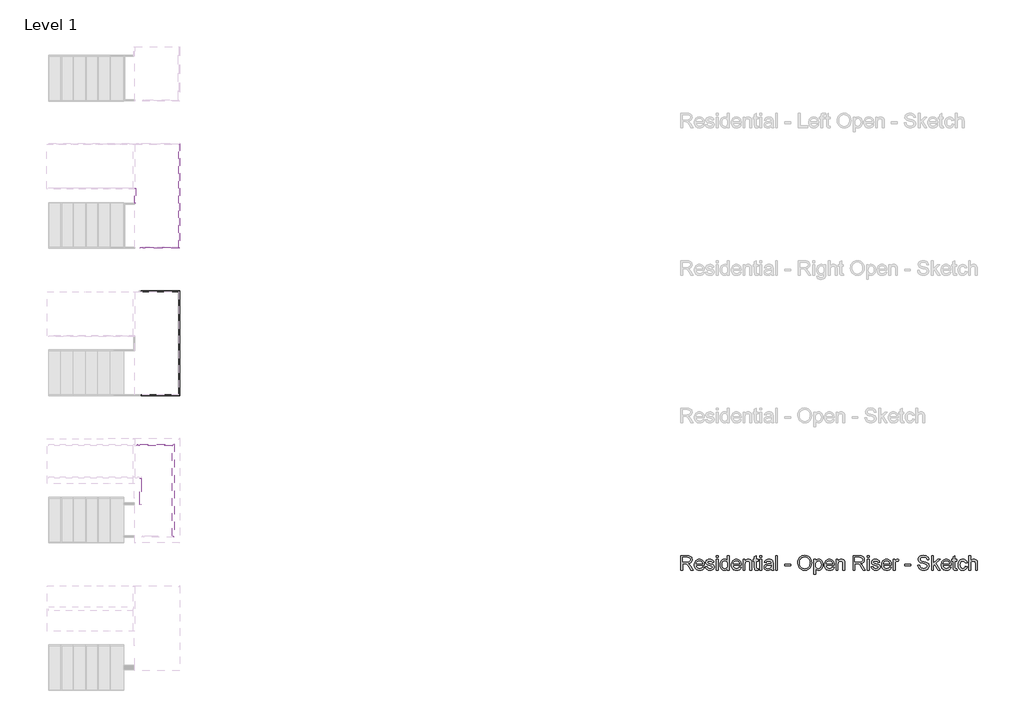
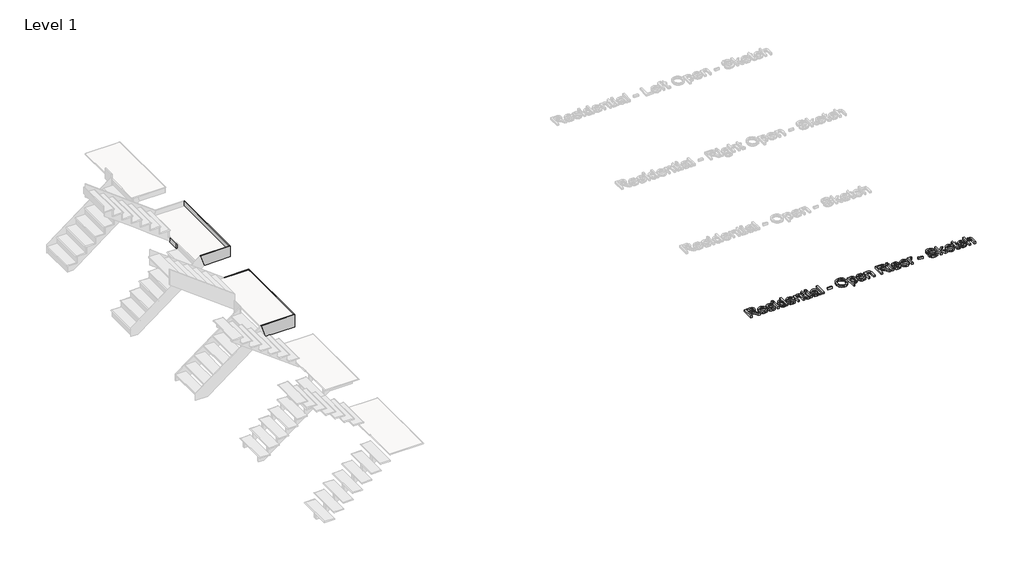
# One storey, part 11 of 26: 9 members, 1 proxy.
"""IFC4 building model written with IfcOpenShell, lengths in millimetres."""

from ifc_helpers import new_model, si_unit, frame, origin, origin_with_axes, place, context, project, spatial, polyline, outline, extrude, faceted_brep, element, save

model = new_model("IFC4")

# Units and contexts
model_context = context("Model", 3, world=origin())
ifc_project = project(units=[si_unit("LENGTHUNIT", "METRE", prefix="MILLI")], contexts=[model_context])

# Site, building, storey
site = spatial("IfcSite", under=ifc_project)
building = spatial("IfcBuilding", under=site)
storey = spatial("IfcBuildingStorey", under=building, Name="Level 1", Elevation=0.0)

# Proxy
placement = place(None, origin())
element("IfcBuildingElementProxy", 1, Name="12\" Arial", ObjectType="12\" Arial", at=placement, inside=storey, context=model_context, shape_type="SweptSolid", body=[
    extrude(outline(polyline([(-4715.4981187, -8811.1232123), (-4715.4981187, -8511.012443), (-4586.1779264, -8511.012443), (-4551.420835, -8513.0365055), (-4526.1337918, -8519.108693), (-4507.6516283, -8530.3188854), (-4493.3091764, -8547.7569623), (-4484.1047293, -8569.380544), (-4481.0365802, -8593.1472507), (-4486.1196331, -8622.7113854), (-4501.3687918, -8647.219943), (-4512.9201439, -8657.2074551), (-4527.2419889, -8665.1892219), (-4564.1971571, -8675.13552), (-4542.875811, -8691.1814815), (-4512.4690802, -8729.7943661), (-4462.4261956, -8811.1232123), (-4506.0213879, -8811.1232123), (-4545.0738879, -8748.9176354), (-4573.2825418, -8707.7403277), (-4593.1018687, -8688.2873469), (-4610.9429264, -8681.1435969), (-4632.7038879, -8679.8247507), (-4677.9842725, -8679.8247507), (-4677.9842725, -8811.1232123), (-4715.4981187, -8811.1232123)]), holes=[polyline([(-4677.9842725, -8642.3109046), (-4594.0177341, -8642.3109046), (-4569.9029985, -8640.9828998), (-4551.1918687, -8636.9988854), (-4537.1058591, -8630.0932604), (-4526.8664841, -8620.0004238), (-4520.6294408, -8607.7919382), (-4518.5504264, -8594.5393661), (-4522.5161235, -8576.2403757), (-4534.4132148, -8561.494943), (-4554.8828062, -8551.7684527), (-4584.5660033, -8548.5262892), (-4677.9842725, -8548.5262892), (-4677.9842725, -8642.3109046)])]), origin_with_axes(), (0.0, 0.0, 1.0), 50.8),
    extrude(outline(polyline([(-4265.7715802, -8745.4739815), (-4228.9904264, -8750.1632123), (-4242.2429985, -8777.8772988), (-4263.3903302, -8798.5941738), (-4291.9561716, -8811.5078757), (-4327.4642725, -8815.812443), (-4350.7409913, -8813.955526), (-4371.4807629, -8808.3847748), (-4389.6835874, -8799.1001894), (-4405.3494648, -8786.10177), (-4417.9471932, -8769.7512832), (-4426.9455706, -8750.4104959), (-4432.344597, -8728.0794082), (-4434.1442725, -8702.75802), (-4432.3262797, -8676.5780079), (-4426.8723014, -8653.5027796), (-4417.7823374, -8633.5323349), (-4405.0563879, -8616.6666738), (-4389.4317244, -8603.2675632), (-4371.6456187, -8593.69677), (-4351.6980706, -8587.954294), (-4329.5890802, -8586.0401354), (-4308.1921752, -8587.9497147), (-4288.8422293, -8593.6784527), (-4271.5392425, -8603.2263493), (-4256.2832148, -8616.5934046), (-4243.8297353, -8633.422431), (-4234.9343927, -8653.3562411), (-4229.5971872, -8676.3948349), (-4227.8181187, -8702.5382123), (-4228.0379264, -8712.6493661), (-4396.6304264, -8712.6493661), (-4390.1369408, -8740.7297988), (-4375.0526379, -8761.3734046), (-4353.2825177, -8774.0672988), (-4326.7315802, -8778.2985969), (-4306.7657148, -8776.338645), (-4289.9504264, -8770.4587892), (-4276.2857148, -8760.2926834), (-4265.7715802, -8745.4739815)]), holes=[polyline([(-4396.6304264, -8675.13552), (-4265.3319648, -8675.13552), (-4270.4058591, -8655.316193), (-4280.3521571, -8641.1385969), (-4302.2230225, -8627.9501354), (-4329.7356187, -8623.5539815), (-4355.0226619, -8627.0617459), (-4375.9318687, -8637.5850392), (-4390.4666523, -8653.9881882), (-4396.6304264, -8675.13552)])]), origin_with_axes(), (0.0, 0.0, 1.0), 50.8),
    extrude(outline(polyline([(-4204.3719648, -8745.4739815), (-4166.8581187, -8740.7847507), (-4160.9416283, -8756.8307123), (-4149.493311, -8768.6270584), (-4132.4398975, -8775.8807123), (-4109.7081187, -8778.2985969), (-4087.2510994, -8776.0822027), (-4071.4615802, -8769.43302), (-4062.1197533, -8759.7981161), (-4059.005811, -8748.6245584), (-4062.1380706, -8739.0629238), (-4071.5348494, -8731.7726354), (-4110.1477341, -8721.0753277), (-4166.638311, -8702.7213854), (-4180.9349696, -8693.4986209), (-4191.2934071, -8681.2901354), (-4197.5854023, -8666.8744142), (-4199.6827341, -8651.029943), (-4197.9975418, -8636.4951594), (-4192.9419648, -8623.0777315), (-4184.973936, -8611.3088613), (-4174.5513879, -8601.7197507), (-4150.7022533, -8590.6194623), (-4118.4271571, -8586.0401354), (-4094.010186, -8587.8810248), (-4072.7804264, -8593.403693), (-4055.7086956, -8602.0677796), (-4043.765811, -8613.3329238), (-4035.8527341, -8628.0325632), (-4030.8704264, -8647.0001354), (-4068.3842725, -8651.6893661), (-4073.1192966, -8639.8838613), (-4082.4885994, -8630.9908084), (-4096.5837677, -8625.4131882), (-4115.4963879, -8623.5539815), (-4137.0375418, -8625.3307604), (-4151.398311, -8630.6610969), (-4159.4762437, -8638.3543661), (-4162.1688879, -8647.219943), (-4157.6994648, -8658.1370584), (-4143.7050418, -8666.4164815), (-4111.393311, -8674.4028277), (-4056.3314841, -8692.0607123), (-4041.7875418, -8700.5049911), (-4030.7605225, -8712.0632123), (-4023.8091043, -8726.7720104), (-4021.4919648, -8744.66802), (-4024.212085, -8763.1685007), (-4032.3724456, -8780.569943), (-4045.6616523, -8795.5077075), (-4063.768311, -8806.6171546), (-4085.6391764, -8813.5136209), (-4110.2210033, -8815.812443), (-4148.0462437, -8811.3796546), (-4175.6504264, -8798.0812892), (-4194.0776379, -8776.0638854), (-4204.3719648, -8745.4739815)])), origin_with_axes(), (0.0, 0.0, 1.0), 50.8),
    extrude(outline(polyline([(-3979.2888879, -8811.1232123), (-3979.2888879, -8590.7293661), (-3941.7750418, -8590.7293661), (-3941.7750418, -8811.1232123), (-3979.2888879, -8811.1232123)])), origin_with_axes(), (0.0, 0.0, 1.0), 50.8),
    extrude(outline(polyline([(-3979.2888879, -8548.5262892), (-3979.2888879, -8511.012443), (-3941.7750418, -8511.012443), (-3941.7750418, -8548.5262892), (-3979.2888879, -8548.5262892)])), origin_with_axes(), (0.0, 0.0, 1.0), 50.8),
    extrude(outline(polyline([(-3749.5165802, -8811.1232123), (-3749.5165802, -8775.7341738), (-3760.7405105, -8793.2684166), (-3774.3365321, -8805.7928757), (-3790.3046451, -8813.3075512), (-3808.6448494, -8815.812443), (-3832.8969648, -8812.1856161), (-3855.0975418, -8801.3051354), (-3873.8910994, -8783.931169), (-3887.9221571, -8760.8238854), (-3896.6595129, -8732.9174671), (-3899.5719648, -8701.1460969), (-3896.8884793, -8669.7685488), (-3888.8380225, -8641.4316738), (-3875.4297533, -8617.747395), (-3856.6728302, -8600.3276354), (-3833.9868446, -8589.6120104), (-3808.7913879, -8586.0401354), (-3790.4374456, -8588.5953998), (-3774.208311, -8596.261193), (-3760.4520129, -8608.0117459), (-3749.5165802, -8622.8212892), (-3749.5165802, -8511.012443), (-3712.0027341, -8511.012443), (-3712.0027341, -8811.1232123), (-3749.5165802, -8811.1232123)]), holes=[polyline([(-3862.0581187, -8700.9995584), (-3857.8268206, -8734.9323709), (-3845.1329264, -8759.0654238), (-3826.6873975, -8773.4903036), (-3805.2011956, -8778.2985969), (-3783.7241523, -8773.7101113), (-3765.7457148, -8759.9446546), (-3753.5738639, -8736.7457844), (-3749.5165802, -8703.8570584), (-3753.6471331, -8667.9001834), (-3766.0387918, -8642.9703277), (-3784.4751619, -8628.408068), (-3806.7398494, -8623.5539815), (-3828.4458591, -8628.2157363), (-3846.2319648, -8642.2010007), (-3858.1015802, -8666.2241498), (-3862.0581187, -8700.9995584)])]), origin_with_axes(), (0.0, 0.0, 1.0), 50.8),
    extrude(outline(polyline([(-3501.4269648, -8745.4739815), (-3464.645811, -8750.1632123), (-3477.8983831, -8777.8772988), (-3499.0457148, -8798.5941738), (-3527.6115562, -8811.5078757), (-3563.1196571, -8815.812443), (-3586.3963759, -8813.955526), (-3607.1361475, -8808.3847748), (-3625.338972, -8799.1001894), (-3641.0048494, -8786.10177), (-3653.6025778, -8769.7512832), (-3662.6009552, -8750.4104959), (-3667.9999817, -8728.0794082), (-3669.7996571, -8702.75802), (-3667.9816643, -8676.5780079), (-3662.527686, -8653.5027796), (-3653.437722, -8633.5323349), (-3640.7117725, -8616.6666738), (-3625.0871091, -8603.2675632), (-3607.3010033, -8593.69677), (-3587.3534552, -8587.954294), (-3565.2444648, -8586.0401354), (-3543.8475598, -8587.9497147), (-3524.4976139, -8593.6784527), (-3507.1946271, -8603.2263493), (-3491.9385994, -8616.5934046), (-3479.4851199, -8633.422431), (-3470.5897773, -8653.3562411), (-3465.2525718, -8676.3948349), (-3463.4735033, -8702.5382123), (-3463.693311, -8712.6493661), (-3632.285811, -8712.6493661), (-3625.7923254, -8740.7297988), (-3610.7080225, -8761.3734046), (-3588.9379023, -8774.0672988), (-3562.3869648, -8778.2985969), (-3542.4210994, -8776.338645), (-3525.605811, -8770.4587892), (-3511.9410994, -8760.2926834), (-3501.4269648, -8745.4739815)]), holes=[polyline([(-3632.285811, -8675.13552), (-3500.9873494, -8675.13552), (-3506.0612437, -8655.316193), (-3516.0075418, -8641.1385969), (-3537.8784071, -8627.9501354), (-3565.3910033, -8623.5539815), (-3590.6780466, -8627.0617459), (-3611.5872533, -8637.5850392), (-3626.1220369, -8653.9881882), (-3632.285811, -8675.13552)])]), origin_with_axes(), (0.0, 0.0, 1.0), 50.8),
    extrude(outline(polyline([(-3425.9596571, -8811.1232123), (-3425.9596571, -8590.7293661), (-3388.445811, -8590.7293661), (-3388.445811, -8621.502443), (-3375.4130466, -8605.9876834), (-3359.7609071, -8594.9057123), (-3341.4893927, -8588.2565296), (-3320.5985033, -8586.0401354), (-3302.1071812, -8587.8260729), (-3285.1728302, -8593.1838854), (-3271.050186, -8601.4449911), (-3260.9939841, -8611.9408084), (-3249.7471571, -8639.5266738), (-3247.7688879, -8675.794943), (-3247.7688879, -8811.1232123), (-3285.2827341, -8811.1232123), (-3285.2827341, -8680.85052), (-3289.6056187, -8647.6595584), (-3295.5862196, -8637.7773709), (-3304.8822533, -8630.1115777), (-3316.7976619, -8625.1933805), (-3330.6363879, -8623.5539815), (-3352.6079985, -8627.2357604), (-3371.3374456, -8638.2810969), (-3378.8223555, -8647.2977916), (-3384.1687196, -8659.6207604), (-3388.445811, -8694.18552), (-3388.445811, -8811.1232123), (-3425.9596571, -8811.1232123)])), origin_with_axes(), (0.0, 0.0, 1.0), 50.8),
    extrude(outline(polyline([(-3116.4704264, -8779.8372507), (-3111.7811956, -8812.2222507), (-3139.843311, -8815.812443), (-3157.8492244, -8814.2554719), (-3171.275811, -8809.5845584), (-3180.7641764, -8802.3858565), (-3186.9554264, -8793.24552), (-3190.3624456, -8777.5475873), (-3191.4981187, -8750.6760969), (-3191.4981187, -8628.2432123), (-3219.6335033, -8628.2432123), (-3219.6335033, -8590.7293661), (-3191.4981187, -8590.7293661), (-3191.4981187, -8537.1695584), (-3153.9842725, -8515.11552), (-3153.9842725, -8590.7293661), (-3116.4704264, -8590.7293661), (-3116.4704264, -8628.2432123), (-3153.9842725, -8628.2432123), (-3153.9842725, -8749.5770584), (-3152.0060033, -8768.9201354), (-3145.5949456, -8775.7708084), (-3132.8094648, -8778.2985969), (-3116.4704264, -8779.8372507)])), origin_with_axes(), (0.0, 0.0, 1.0), 50.8),
    extrude(outline(polyline([(-3078.9565802, -8811.1232123), (-3078.9565802, -8590.7293661), (-3041.4427341, -8590.7293661), (-3041.4427341, -8811.1232123), (-3078.9565802, -8811.1232123)])), origin_with_axes(), (0.0, 0.0, 1.0), 50.8),
    extrude(outline(polyline([(-3078.9565802, -8548.5262892), (-3078.9565802, -8511.012443), (-3041.4427341, -8511.012443), (-3041.4427341, -8548.5262892), (-3078.9565802, -8548.5262892)])), origin_with_axes(), (0.0, 0.0, 1.0), 50.8),
    extrude(outline(polyline([(-2844.4950418, -8782.9878277), (-2862.4185273, -8798.3560488), (-2880.8732148, -8808.4122507), (-2900.2804023, -8813.962395), (-2921.0613879, -8815.812443), (-2952.41146, -8811.3613373), (-2975.537061, -8798.00802), (-2989.797085, -8777.7307604), (-2994.5504264, -8752.5078277), (-2992.7553302, -8736.9564334), (-2987.3700418, -8722.8337892), (-2979.0631427, -8710.7443661), (-2968.5032148, -8701.2926354), (-2942.2361956, -8688.9834046), (-2909.7779264, -8683.3416738), (-2871.4214841, -8677.4068661), (-2844.7148494, -8670.4462892), (-2844.4950418, -8662.0935969), (-2847.0777821, -8645.3515777), (-2854.8260033, -8634.3978277), (-2872.1541764, -8626.264943), (-2896.2963879, -8623.5539815), (-2918.6435033, -8625.3582363), (-2934.2498494, -8630.7710007), (-2944.8922052, -8640.7814094), (-2952.3473494, -8656.3785969), (-2989.8611956, -8651.6893661), (-2983.3493927, -8631.1739815), (-2973.632061, -8615.0547507), (-2959.8024937, -8602.7272027), (-2940.9539841, -8593.5868661), (-2917.9016523, -8587.926818), (-2891.4606187, -8586.0401354), (-2866.1003062, -8587.7070104), (-2845.997061, -8592.7076354), (-2830.8394889, -8600.2268902), (-2820.3161956, -8609.4496546), (-2813.3373014, -8620.8521786), (-2808.8129264, -8634.9107123), (-2806.9811956, -8667.7353277), (-2806.9811956, -8714.4078277), (-2805.0761956, -8779.5808084), (-2797.6027341, -8811.1232123), (-2835.1165802, -8811.1232123), (-2844.4950418, -8782.9878277)]), holes=[polyline([(-2844.4950418, -8707.9601354), (-2905.0154264, -8719.4634046), (-2937.2905225, -8725.5447507), (-2951.9077341, -8735.4360969), (-2957.0365802, -8749.8701354), (-2954.2431908, -8761.0253757), (-2945.8630225, -8770.1657123), (-2932.0792485, -8776.2653757), (-2913.0750418, -8778.2985969), (-2892.9260033, -8776.0547267), (-2875.1215802, -8769.3231161), (-2860.6875418, -8759.404294), (-2850.6496571, -8747.5987892), (-2846.1985514, -8735.4360969), (-2844.7148494, -8718.5841738), (-2844.4950418, -8707.9601354)])]), origin_with_axes(), (0.0, 0.0, 1.0), 50.8),
    extrude(outline(polyline([(-2755.3996571, -8811.1232123), (-2755.3996571, -8511.012443), (-2717.885811, -8511.012443), (-2717.885811, -8811.1232123), (-2755.3996571, -8811.1232123)])), origin_with_axes(), (0.0, 0.0, 1.0), 50.8),
    extrude(outline(polyline([(-2563.1411956, -8722.0278277), (-2563.1411956, -8684.5139815), (-2445.9104264, -8684.5139815), (-2445.9104264, -8722.0278277), (-2563.1411956, -8722.0278277)])), origin_with_axes(), (0.0, 0.0, 1.0), 50.8),
    extrude(outline(polyline([(-2295.8550418, -8665.0243661), (-2293.3547293, -8629.8230801), (-2285.8537918, -8598.6607604), (-2273.3522293, -8571.537407), (-2255.8500418, -8548.45302), (-2234.3958951, -8530.0212291), (-2210.0384552, -8516.8556642), (-2182.777722, -8508.9563253), (-2152.6136956, -8506.3232123), (-2113.2498014, -8511.2688854), (-2077.9523494, -8526.1059046), (-2048.6446571, -8549.7901834), (-2027.2500418, -8581.2776354), (-2014.1714841, -8619.0479238), (-2009.8119648, -8661.5807123), (-2014.4004504, -8704.6813373), (-2028.1659071, -8742.9828277), (-2050.3481668, -8774.5252315), (-2080.187061, -8797.3485969), (-2115.1822773, -8811.1964815), (-2152.8335033, -8815.812443), (-2192.8018687, -8810.7110729), (-2228.300811, -8795.4069623), (-2257.5352341, -8771.283068), (-2278.7100418, -8739.7223469), (-2291.5687918, -8703.4082844), (-2295.8550418, -8665.0243661)]), holes=[polyline([(-2258.3411956, -8665.3907123), (-2256.4659612, -8690.2610368), (-2250.8402581, -8712.3379719), (-2241.4640862, -8731.6215176), (-2228.3374456, -8748.1116738), (-2212.3807809, -8761.3184527), (-2194.5145369, -8770.7518661), (-2174.7387136, -8776.4119142), (-2153.053311, -8778.2985969), (-2130.9969829, -8776.3935969), (-2110.9876139, -8770.6785969), (-2093.025204, -8761.1535969), (-2077.1097533, -8747.8185969), (-2064.0792785, -8730.9804118), (-2054.7717966, -8710.9458565), (-2049.1873074, -8687.714931), (-2047.325811, -8661.2876354), (-2050.5130225, -8628.0783565), (-2060.0746571, -8599.3751354), (-2075.7634312, -8575.9015055), (-2097.332061, -8558.3810007), (-2123.3517966, -8547.473044), (-2152.3938879, -8543.8370584), (-2173.3259913, -8545.588651), (-2192.7469168, -8550.8434286), (-2210.6566643, -8559.6013914), (-2227.0552341, -8571.8625392), (-2240.7428422, -8588.2176053), (-2250.5197052, -8609.2573229), (-2256.385823, -8634.9816918), (-2258.3411956, -8665.3907123)])]), origin_with_axes(), (0.0, 0.0, 1.0), 50.8),
    extrude(outline(polyline([(-1962.9196571, -8895.5293661), (-1962.9196571, -8590.7293661), (-1925.405811, -8590.7293661), (-1925.405811, -8627.51052), (-1913.1698494, -8609.3672267), (-1899.4685033, -8596.4077315), (-1883.495811, -8588.6320344), (-1864.445811, -8586.0401354), (-1839.0763398, -8589.6669623), (-1816.8940802, -8600.547443), (-1798.8332148, -8618.0221546), (-1785.8279264, -8641.4316738), (-1777.9698014, -8669.0724911), (-1775.3504264, -8699.2410969), (-1778.3086716, -8731.3238613), (-1787.1834071, -8760.0179238), (-1801.6907148, -8783.8670584), (-1821.5466764, -8801.4150392), (-1844.6722773, -8812.2130921), (-1868.9885033, -8815.812443), (-1886.2342485, -8813.4037171), (-1901.6299456, -8806.1775392), (-1914.8092485, -8795.2695825), (-1925.405811, -8781.81552), (-1925.405811, -8895.5293661), (-1962.9196571, -8895.5293661)]), holes=[polyline([(-1925.405811, -8702.6847507), (-1921.3485273, -8736.3153277), (-1909.1766764, -8759.8347507), (-1891.2165562, -8773.6826354), (-1869.7944648, -8778.2985969), (-1848.0243446, -8773.5177796), (-1829.6062918, -8759.1753277), (-1817.0497773, -8734.7949911), (-1812.8642725, -8699.90052), (-1816.9490321, -8666.4531161), (-1829.203311, -8642.6039815), (-1847.1359552, -8628.3164815), (-1868.255811, -8623.5539815), (-1889.4580946, -8628.6187171), (-1908.0776379, -8643.8129238), (-1921.0737677, -8668.6603517), (-1925.405811, -8702.6847507)])]), origin_with_axes(), (0.0, 0.0, 1.0), 50.8),
    extrude(outline(polyline([(-1578.8423494, -8745.4739815), (-1542.0611956, -8750.1632123), (-1555.3137677, -8777.8772988), (-1576.4610994, -8798.5941738), (-1605.0269408, -8811.5078757), (-1640.5350418, -8815.812443), (-1663.8117605, -8813.955526), (-1684.5515321, -8808.3847748), (-1702.7543567, -8799.1001894), (-1718.4202341, -8786.10177), (-1731.0179624, -8769.7512832), (-1740.0163398, -8750.4104959), (-1745.4153663, -8728.0794082), (-1747.2150418, -8702.75802), (-1745.397049, -8676.5780079), (-1739.9430706, -8653.5027796), (-1730.8531067, -8633.5323349), (-1718.1271571, -8616.6666738), (-1702.5024937, -8603.2675632), (-1684.7163879, -8593.69677), (-1664.7688398, -8587.954294), (-1642.6598494, -8586.0401354), (-1621.2629444, -8587.9497147), (-1601.9129985, -8593.6784527), (-1584.6100117, -8603.2263493), (-1569.3539841, -8616.5934046), (-1556.9005045, -8633.422431), (-1548.0051619, -8653.3562411), (-1542.6679564, -8676.3948349), (-1540.8888879, -8702.5382123), (-1541.1086956, -8712.6493661), (-1709.7011956, -8712.6493661), (-1703.20771, -8740.7297988), (-1688.1234071, -8761.3734046), (-1666.3532869, -8774.0672988), (-1639.8023494, -8778.2985969), (-1619.8364841, -8776.338645), (-1603.0211956, -8770.4587892), (-1589.3564841, -8760.2926834), (-1578.8423494, -8745.4739815)]), holes=[polyline([(-1709.7011956, -8675.13552), (-1578.4027341, -8675.13552), (-1583.4766283, -8655.316193), (-1593.4229264, -8641.1385969), (-1615.2937918, -8627.9501354), (-1642.8063879, -8623.5539815), (-1668.0934312, -8627.0617459), (-1689.0026379, -8637.5850392), (-1703.5374216, -8653.9881882), (-1709.7011956, -8675.13552)])]), origin_with_axes(), (0.0, 0.0, 1.0), 50.8),
    extrude(outline(polyline([(-1503.3750418, -8811.1232123), (-1503.3750418, -8590.7293661), (-1465.8611956, -8590.7293661), (-1465.8611956, -8621.502443), (-1452.8284312, -8605.9876834), (-1437.1762918, -8594.9057123), (-1418.9047773, -8588.2565296), (-1398.0138879, -8586.0401354), (-1379.5225658, -8587.8260729), (-1362.5882148, -8593.1838854), (-1348.4655706, -8601.4449911), (-1338.4093687, -8611.9408084), (-1327.1625418, -8639.5266738), (-1325.1842725, -8675.794943), (-1325.1842725, -8811.1232123), (-1362.6981187, -8811.1232123), (-1362.6981187, -8680.85052), (-1367.0210033, -8647.6595584), (-1373.0016043, -8637.7773709), (-1382.2976379, -8630.1115777), (-1394.2130466, -8625.1933805), (-1408.0517725, -8623.5539815), (-1430.0233831, -8627.2357604), (-1448.7528302, -8638.2810969), (-1456.2377401, -8647.2977916), (-1461.5841043, -8659.6207604), (-1465.8611956, -8694.18552), (-1465.8611956, -8811.1232123), (-1503.3750418, -8811.1232123)])), origin_with_axes(), (0.0, 0.0, 1.0), 50.8),
    extrude(outline(polyline([(-1151.6827341, -8811.1232123), (-1151.6827341, -8511.012443), (-1022.3625418, -8511.012443), (-987.6054504, -8513.0365055), (-962.3184071, -8519.108693), (-943.8362437, -8530.3188854), (-929.4937918, -8547.7569623), (-920.2893446, -8569.380544), (-917.2211956, -8593.1472507), (-922.3042485, -8622.7113854), (-937.5534071, -8647.219943), (-949.1047593, -8657.2074551), (-963.4266043, -8665.1892219), (-1000.3817725, -8675.13552), (-979.0604264, -8691.1814815), (-948.6536956, -8729.7943661), (-898.610811, -8811.1232123), (-942.2060033, -8811.1232123), (-981.2585033, -8748.9176354), (-1009.4671571, -8707.7403277), (-1029.2864841, -8688.2873469), (-1047.1275418, -8681.1435969), (-1068.8885033, -8679.8247507), (-1114.1688879, -8679.8247507), (-1114.1688879, -8811.1232123), (-1151.6827341, -8811.1232123)]), holes=[polyline([(-1114.1688879, -8642.3109046), (-1030.2023494, -8642.3109046), (-1006.0876139, -8640.9828998), (-987.3764841, -8636.9988854), (-973.2904744, -8630.0932604), (-963.0510994, -8620.0004238), (-956.8140562, -8607.7919382), (-954.7350418, -8594.5393661), (-958.7007389, -8576.2403757), (-970.5978302, -8561.494943), (-991.0674216, -8551.7684527), (-1020.7506187, -8548.5262892), (-1114.1688879, -8548.5262892), (-1114.1688879, -8642.3109046)])]), origin_with_axes(), (0.0, 0.0, 1.0), 50.8),
    extrude(outline(polyline([(-856.2611956, -8811.1232123), (-856.2611956, -8590.7293661), (-818.7473494, -8590.7293661), (-818.7473494, -8811.1232123), (-856.2611956, -8811.1232123)])), origin_with_axes(), (0.0, 0.0, 1.0), 50.8),
    extrude(outline(polyline([(-856.2611956, -8548.5262892), (-856.2611956, -8511.012443), (-818.7473494, -8511.012443), (-818.7473494, -8548.5262892), (-856.2611956, -8548.5262892)])), origin_with_axes(), (0.0, 0.0, 1.0), 50.8),
    extrude(outline(polyline([(-776.5442725, -8745.4739815), (-739.0304264, -8740.7847507), (-733.113936, -8756.8307123), (-721.6656187, -8768.6270584), (-704.6122052, -8775.8807123), (-681.8804264, -8778.2985969), (-659.4234071, -8776.0822027), (-643.6338879, -8769.43302), (-634.292061, -8759.7981161), (-631.1781187, -8748.6245584), (-634.3103783, -8739.0629238), (-643.7071571, -8731.7726354), (-682.3200418, -8721.0753277), (-738.8106187, -8702.7213854), (-753.1072773, -8693.4986209), (-763.4657148, -8681.2901354), (-769.75771, -8666.8744142), (-771.8550418, -8651.029943), (-770.1698494, -8636.4951594), (-765.1142725, -8623.0777315), (-757.1462437, -8611.3088613), (-746.7236956, -8601.7197507), (-722.874561, -8590.6194623), (-690.5994648, -8586.0401354), (-666.1824937, -8587.8810248), (-644.9527341, -8593.403693), (-627.8810033, -8602.0677796), (-615.9381187, -8613.3329238), (-608.0250418, -8628.0325632), (-603.0427341, -8647.0001354), (-640.5565802, -8651.6893661), (-645.2916043, -8639.8838613), (-654.6609071, -8630.9908084), (-668.7560754, -8625.4131882), (-687.6686956, -8623.5539815), (-709.2098494, -8625.3307604), (-723.5706187, -8630.6610969), (-731.6485514, -8638.3543661), (-734.3411956, -8647.219943), (-729.8717725, -8658.1370584), (-715.8773494, -8666.4164815), (-683.5656187, -8674.4028277), (-628.5037918, -8692.0607123), (-613.9598494, -8700.5049911), (-602.9328302, -8712.0632123), (-595.9814119, -8726.7720104), (-593.6642725, -8744.66802), (-596.3843927, -8763.1685007), (-604.5447533, -8780.569943), (-617.83396, -8795.5077075), (-635.9406187, -8806.6171546), (-657.8114841, -8813.5136209), (-682.393311, -8815.812443), (-720.2185514, -8811.3796546), (-747.8227341, -8798.0812892), (-766.2499456, -8776.0638854), (-776.5442725, -8745.4739815)])), origin_with_axes(), (0.0, 0.0, 1.0), 50.8),
    extrude(outline(polyline([(-397.1561956, -8745.4739815), (-360.3750418, -8750.1632123), (-373.6276139, -8777.8772988), (-394.7749456, -8798.5941738), (-423.3407869, -8811.5078757), (-458.8488879, -8815.812443), (-482.1256067, -8813.955526), (-502.8653783, -8808.3847748), (-521.0682028, -8799.1001894), (-536.7340802, -8786.10177), (-549.3318086, -8769.7512832), (-558.330186, -8750.4104959), (-563.7292124, -8728.0794082), (-565.5288879, -8702.75802), (-563.7108951, -8676.5780079), (-558.2569168, -8653.5027796), (-549.1669528, -8633.5323349), (-536.4410033, -8616.6666738), (-520.8163398, -8603.2675632), (-503.0302341, -8593.69677), (-483.082686, -8587.954294), (-460.9736956, -8586.0401354), (-439.5767905, -8587.9497147), (-420.2268446, -8593.6784527), (-402.9238579, -8603.2263493), (-387.6678302, -8616.5934046), (-375.2143506, -8633.422431), (-366.3190081, -8653.3562411), (-360.9818026, -8676.3948349), (-359.2027341, -8702.5382123), (-359.4225418, -8712.6493661), (-528.0150418, -8712.6493661), (-521.5215562, -8740.7297988), (-506.4372533, -8761.3734046), (-484.6671331, -8774.0672988), (-458.1161956, -8778.2985969), (-438.1503302, -8776.338645), (-421.3350418, -8770.4587892), (-407.6703302, -8760.2926834), (-397.1561956, -8745.4739815)]), holes=[polyline([(-528.0150418, -8675.13552), (-396.7165802, -8675.13552), (-401.7904744, -8655.316193), (-411.7367725, -8641.1385969), (-433.6076379, -8627.9501354), (-461.1202341, -8623.5539815), (-486.4072773, -8627.0617459), (-507.3164841, -8637.5850392), (-521.8512677, -8653.9881882), (-528.0150418, -8675.13552)])]), origin_with_axes(), (0.0, 0.0, 1.0), 50.8),
    extrude(outline(polyline([(-321.6888879, -8811.1232123), (-321.6888879, -8590.7293661), (-288.8642725, -8590.7293661), (-288.8642725, -8623.3341738), (-276.7382148, -8604.4307123), (-265.5646571, -8593.2937892), (-254.3544648, -8587.8535488), (-242.1185033, -8586.0401354), (-223.4348494, -8588.93427), (-204.4581187, -8597.6166738), (-216.9871571, -8631.2472507), (-230.1756187, -8625.4772988), (-243.3640802, -8623.5539815), (-254.5651139, -8625.4040296), (-264.5755225, -8630.9541738), (-272.6626139, -8639.7831161), (-278.0936956, -8651.4695584), (-282.6547052, -8672.4245584), (-284.1750418, -8695.2845584), (-284.1750418, -8811.1232123), (-321.6888879, -8811.1232123)])), origin_with_axes(), (0.0, 0.0, 1.0), 50.8),
    extrude(outline(polyline([(-82.5381187, -8722.0278277), (-82.5381187, -8684.5139815), (34.6926506, -8684.5139815), (34.6926506, -8722.0278277), (-82.5381187, -8722.0278277)])), origin_with_axes(), (0.0, 0.0, 1.0), 50.8),
    extrude(outline(polyline([(184.7480352, -8707.9601354), (222.2618813, -8707.9601354), (226.5664486, -8728.7777555), (234.3513044, -8745.5106161), (246.4956794, -8758.7906642), (263.8788044, -8769.2498469), (285.1268813, -8776.0364094), (308.8661121, -8778.2985969), (329.7661602, -8776.5859286), (348.0651506, -8771.4479238), (362.8930111, -8763.3150392), (373.3796698, -8752.6177315), (379.6167131, -8740.3359767), (381.6957275, -8727.4497507), (380.1387563, -8714.8932363), (375.4678429, -8704.0402315), (365.9794775, -8694.7808325), (349.9701506, -8687.0051354), (295.347939, -8672.6810007), (259.4918092, -8663.201794), (236.5493813, -8654.18052), (217.8748861, -8641.559895), (204.6406313, -8626.264943), (196.7550304, -8608.6253757), (194.1264967, -8588.9709046), (197.3778188, -8566.999294), (207.1317852, -8546.5113854), (223.1319534, -8529.1465777), (245.1218813, -8516.54427), (271.5171217, -8508.8784767), (300.7332275, -8506.3232123), (332.3855352, -8508.9975392), (360.0813044, -8517.02052), (382.8314006, -8530.2272988), (399.646689, -8548.45302), (410.2890448, -8570.5620104), (414.5203429, -8595.4185969), (377.0064967, -8595.4185969), (370.119189, -8573.0348469), (355.7584198, -8556.8789815), (333.3197179, -8547.0975392), (302.1986121, -8543.8370584), (270.344814, -8547.0609046), (248.4922659, -8556.732443), (235.8533236, -8570.9649911), (231.6403429, -8587.8718661), (234.626064, -8602.2875873), (243.5832275, -8613.882443), (264.7580352, -8624.2500392), (304.8363044, -8634.837443), (346.1967852, -8644.893645), (371.2182275, -8653.6676354), (392.6036842, -8667.277395), (407.5231313, -8684.0743661), (416.2879631, -8703.8753757), (419.2095736, -8726.4972507), (415.8483477, -8749.6228517), (405.7646698, -8771.3746546), (389.3706794, -8790.094943), (367.0785159, -8804.1260007), (340.2711361, -8812.8908325), (310.3314967, -8815.812443), (273.5778188, -8812.6618661), (243.3267852, -8803.2101354), (219.2303669, -8787.4206161), (200.9405352, -8765.2566738), (189.1991409, -8738.2569623), (184.7480352, -8707.9601354)])), origin_with_axes(), (0.0, 0.0, 1.0), 50.8),
    extrude(outline(polyline([(470.7911121, -8811.1232123), (470.7911121, -8511.012443), (508.3049582, -8511.012443), (508.3049582, -8672.27802), (592.4180352, -8590.7293661), (644.2926506, -8590.7293661), (559.1538044, -8673.3037892), (648.9818813, -8811.1232123), (605.1668813, -8811.1232123), (532.2639967, -8699.3876354), (508.3049582, -8722.6139815), (508.3049582, -8811.1232123), (470.7911121, -8811.1232123)])), origin_with_axes(), (0.0, 0.0, 1.0), 50.8),
    extrude(outline(polyline([(836.1114967, -8745.4739815), (872.8926506, -8750.1632123), (859.6400784, -8777.8772988), (838.4927467, -8798.5941738), (809.9269054, -8811.5078757), (774.4188044, -8815.812443), (751.1420857, -8813.955526), (730.402314, -8808.3847748), (712.1994895, -8799.1001894), (696.5336121, -8786.10177), (683.9358837, -8769.7512832), (674.9375063, -8750.4104959), (669.5384799, -8728.0794082), (667.7388044, -8702.75802), (669.5567972, -8676.5780079), (675.0107756, -8653.5027796), (684.1007395, -8633.5323349), (696.826689, -8616.6666738), (712.4513525, -8603.2675632), (730.2374582, -8593.69677), (750.1850063, -8587.954294), (772.2939967, -8586.0401354), (793.6909018, -8587.9497147), (813.0408477, -8593.6784527), (830.3438345, -8603.2263493), (845.5998621, -8616.5934046), (858.0533417, -8633.422431), (866.9486842, -8653.3562411), (872.2858897, -8676.3948349), (874.0649582, -8702.5382123), (873.8451506, -8712.6493661), (705.2526506, -8712.6493661), (711.7461361, -8740.7297988), (726.830439, -8761.3734046), (748.6005592, -8774.0672988), (775.1514967, -8778.2985969), (795.1173621, -8776.338645), (811.9326506, -8770.4587892), (825.5973621, -8760.2926834), (836.1114967, -8745.4739815)]), holes=[polyline([(705.2526506, -8675.13552), (836.5511121, -8675.13552), (831.4772179, -8655.316193), (821.5309198, -8641.1385969), (799.6600544, -8627.9501354), (772.1474582, -8623.5539815), (746.860415, -8627.0617459), (725.9512082, -8637.5850392), (711.4164246, -8653.9881882), (705.2526506, -8675.13552)])]), origin_with_axes(), (0.0, 0.0, 1.0), 50.8),
    extrude(outline(polyline([(991.2957275, -8779.8372507), (995.9849582, -8812.2222507), (967.9228429, -8815.812443), (949.9169294, -8814.2554719), (936.4903429, -8809.5845584), (927.0019775, -8802.3858565), (920.8107275, -8793.24552), (917.4037082, -8777.5475873), (916.2680352, -8750.6760969), (916.2680352, -8628.2432123), (888.1326506, -8628.2432123), (888.1326506, -8590.7293661), (916.2680352, -8590.7293661), (916.2680352, -8537.1695584), (953.7818813, -8515.11552), (953.7818813, -8590.7293661), (991.2957275, -8590.7293661), (991.2957275, -8628.2432123), (953.7818813, -8628.2432123), (953.7818813, -8749.5770584), (955.7601506, -8768.9201354), (962.1712082, -8775.7708084), (974.956689, -8778.2985969), (991.2957275, -8779.8372507)])), origin_with_axes(), (0.0, 0.0, 1.0), 50.8),
    extrude(outline(polyline([(1169.4864967, -8731.4062892), (1207.0003429, -8736.09552), (1196.5411602, -8769.4604959), (1176.886689, -8794.67427), (1149.8869775, -8810.5278998), (1117.3920736, -8815.812443), (1096.3523561, -8813.969264), (1077.4878188, -8808.4397267), (1060.7984619, -8799.2238313), (1046.2842852, -8786.3215777), (1034.536022, -8769.9756702), (1026.1444054, -8750.4288132), (1021.1094354, -8727.6810067), (1019.4311121, -8701.7322507), (1022.2977707, -8668.3489575), (1030.8977467, -8639.41677), (1045.3684198, -8616.053044), (1065.8471698, -8599.3751354), (1090.3465688, -8589.3738854), (1116.879189, -8586.0401354), (1148.57729, -8590.6194623), (1173.9192852, -8604.357443), (1192.0992131, -8626.5213854), (1202.3111121, -8656.3785969), (1164.7972659, -8661.0678277), (1157.9923861, -8644.7013132), (1147.3958236, -8632.9690777), (1133.5937323, -8625.9077555), (1117.1722659, -8623.5539815), (1092.9293092, -8628.1882604), (1073.6869775, -8642.0910969), (1061.1304631, -8666.0135007), (1056.9449582, -8700.7064815), (1061.0388765, -8735.8665536), (1073.3206313, -8759.8713854), (1092.2149342, -8773.691794), (1116.1464967, -8778.2985969), (1135.5720015, -8775.4227796), (1151.4989006, -8766.7953277), (1163.0845977, -8752.1964334), (1169.4864967, -8731.4062892)])), origin_with_axes(), (0.0, 0.0, 1.0), 50.8),
    extrude(outline(polyline([(1239.8249582, -8811.1232123), (1239.8249582, -8511.012443), (1277.3388044, -8511.012443), (1277.3388044, -8621.3559046), (1291.1179991, -8605.9052555), (1306.5915448, -8594.8690777), (1323.7594414, -8588.2473709), (1342.621689, -8586.0401354), (1365.2801986, -8588.4488613), (1384.7514967, -8595.6750392), (1400.0830832, -8607.1508325), (1410.3224582, -8622.3084046), (1416.0924102, -8643.1351834), (1418.0157275, -8671.6185969), (1418.0157275, -8811.1232123), (1380.5018813, -8811.1232123), (1380.5018813, -8675.5018661), (1377.5161602, -8652.0190777), (1368.5589967, -8635.9364815), (1354.1249582, -8626.6496065), (1334.7086121, -8623.5539815), (1318.8549823, -8625.6421546), (1303.9721698, -8631.9066738), (1291.6446217, -8641.743068), (1283.4567852, -8654.5468661), (1278.8682996, -8671.563645), (1277.3388044, -8694.0389815), (1277.3388044, -8811.1232123), (1239.8249582, -8811.1232123)])), origin_with_axes(), (0.0, 0.0, 1.0), 50.8),
])

# Members
element("IfcMember", 2, at=placement, inside=storey, context=model_context, shape_type="SweptSolid", body=[
    extrude(outline(polyline([(-16004.0481446, -920.8871906), (-15984.9981446, -920.8871906), (-15984.9981446, -1225.6871906), (-16004.0481446, -1225.6871906), (-16004.0481446, -920.8871906)])), frame((0.0, 0.0, 1358.9), z_axis=(0.0, 0.0, 1.0), x_axis=(1.0, 0.0, 0.0)), (0.0, 0.0, 1.0), 139.7),
])
element("IfcMember", 3, at=placement, inside=storey, context=model_context, shape_type="Brep", body=[
    faceted_brep([(-15887.631478, -2140.0871906, 1663.7), (-15887.631478, -2159.1371906, 1663.7), (-15070.5981446, -2159.1371906, 1663.7), (-15089.6481446, -2140.0871906, 1663.7), (-15786.031478, -2140.0871906, 1358.9), (-15089.6481446, -2140.0871906, 1358.9), (-15786.031478, -2159.1371906, 1358.9), (-15070.5981446, -2159.1371906, 1358.9)], [[[0, 1, 2, 3]], [[4, 0, 3, 5]], [[6, 4, 5, 7]], [[1, 6, 7, 2]], [[1, 0, 4, 6]], [[2, 7, 5, 3]]]),
])
element("IfcMember", 4, at=placement, inside=storey, context=model_context, shape_type="SweptSolid", body=[
    extrude(outline(polyline([(-15070.5981446, -2159.1371906), (-15089.6481446, -2140.0871906), (-15089.6481446, -6.4871906), (-15070.5981446, 12.5628094), (-15070.5981446, -2159.1371906)])), frame((0.0, 0.0, 1358.9), z_axis=(0.0, 0.0, 1.0), x_axis=(1.0, 0.0, 0.0)), (0.0, 0.0, 1.0), 304.8),
])
element("IfcMember", 5, at=placement, inside=storey, context=model_context, shape_type="Brep", body=[
    faceted_brep([(-15991.3481446, -5188.0871906, 1533.525), (-15991.3481446, -5207.1371906, 1533.525), (-15070.5981446, -5207.1371906, 1533.525), (-15089.6481446, -5188.0871906, 1533.525), (-15872.8148113, -5188.0871906, 1177.925), (-15089.6481446, -5188.0871906, 1177.925), (-15872.8148113, -5207.1371906, 1177.925), (-15070.5981446, -5207.1371906, 1177.925)], [[[0, 1, 2, 3]], [[4, 0, 3, 5]], [[6, 4, 5, 7]], [[1, 6, 7, 2]], [[1, 0, 4, 6]], [[2, 7, 5, 3]]]),
])
element("IfcMember", 6, at=placement, inside=storey, context=model_context, shape_type="SweptSolid", body=[
    extrude(outline(polyline([(-15070.5981446, -5207.1371906), (-15089.6481446, -5188.0871906), (-15089.6481446, -3054.4871906), (-15070.5981446, -3035.4371906), (-15070.5981446, -5207.1371906)])), frame((0.0, 0.0, 1177.925), z_axis=(0.0, 0.0, 1.0), x_axis=(1.0, 0.0, 0.0)), (0.0, 0.0, 1.0), 355.6),
])
element("IfcMember", 7, at=placement, inside=storey, context=model_context, shape_type="Brep", body=[
    faceted_brep([(-15089.6481446, -3054.4871906, 1533.525), (-15070.5981446, -3035.4371906, 1533.525), (-15762.7481446, -3035.4371906, 1533.525), (-15762.7481446, -3054.4871906, 1533.525), (-15089.6481446, -3054.4871906, 1177.925), (-15881.281478, -3054.4871906, 1177.925), (-15070.5981446, -3035.4371906, 1177.925), (-15881.281478, -3035.4371906, 1177.925)], [[[0, 1, 2, 3]], [[4, 0, 3, 5]], [[6, 4, 5, 7]], [[1, 6, 7, 2]], [[1, 0, 4, 6]], [[2, 7, 5, 3]]]),
])
element("IfcMember", 8, at=placement, inside=storey, context=model_context, shape_type="SweptSolid", body=[
    extrude(outline(polyline([(-15864.3481446, -6915.2871906), (-15864.3481446, -7461.3871906), (-15902.4481446, -7461.3871906), (-15902.4481446, -6915.2871906), (-15864.3481446, -6915.2871906)])), frame((0.0, 0.0, 1358.9), z_axis=(0.0, 0.0, 1.0), x_axis=(1.0, 0.0, 0.0)), (0.0, 0.0, 1.0), 139.7),
])
element("IfcMember", 9, at=placement, inside=storey, context=model_context, shape_type="SweptSolid", body=[
    extrude(outline(polyline([(-15229.3481446, -8096.3871906), (-15229.3481446, -6242.1871906), (-15191.2481446, -6204.0871906), (-15191.2481446, -8134.4871906), (-15229.3481446, -8096.3871906)])), frame((0.0, 0.0, 1358.9), z_axis=(0.0, 0.0, 1.0), x_axis=(1.0, 0.0, 0.0)), (0.0, 0.0, 1.0), 139.7),
])
element("IfcMember", 10, at=placement, inside=storey, context=model_context, shape_type="Brep", body=[
    faceted_brep([(-15949.0148113, -6242.1871906, 1358.9), (-15229.3481446, -6242.1871906, 1358.9), (-15229.3481446, -6242.1871906, 1498.6), (-15902.4481446, -6242.1871906, 1498.6), (-15949.0148113, -6204.0871906, 1358.9), (-15191.2481446, -6204.0871906, 1358.9), (-15902.4481446, -6204.0871906, 1498.6), (-15191.2481446, -6204.0871906, 1498.6)], [[[0, 1, 2, 3]], [[1, 0, 4, 5]], [[5, 4, 6, 7]], [[1, 5, 7, 2]], [[4, 0, 3, 6]], [[3, 2, 7, 6]]]),
])

save(model, "model.ifc")
